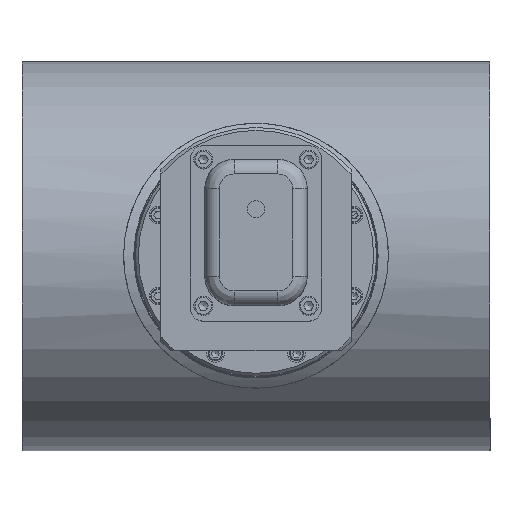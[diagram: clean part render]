
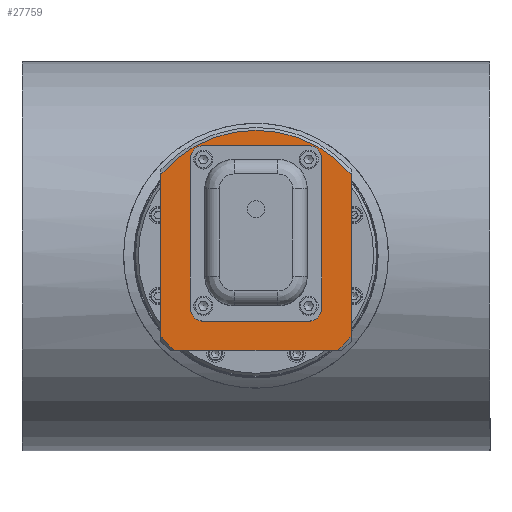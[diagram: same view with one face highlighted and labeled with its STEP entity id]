
A CAD part, top view. The second image highlights one B-rep face of the part: STEP entity #27759.
In plain terms, the highlighted planar face has unit normal (0, 0, 1).
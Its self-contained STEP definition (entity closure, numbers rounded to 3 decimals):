
#1642=FACE_BOUND('',#4150,.T.);
#1643=FACE_BOUND('',#4151,.T.);
#1644=FACE_BOUND('',#4152,.T.);
#1645=FACE_BOUND('',#4153,.T.);
#1646=FACE_BOUND('',#4154,.T.);
#2121=PLANE('',#29389);
#2633=FACE_OUTER_BOUND('',#4149,.T.);
#4149=EDGE_LOOP('',(#17711,#17712,#17713,#17714,#17715,#17716));
#4150=EDGE_LOOP('',(#17717));
#4151=EDGE_LOOP('',(#17718,#17719));
#4152=EDGE_LOOP('',(#17720,#17721));
#4153=EDGE_LOOP('',(#17722,#17723));
#4154=EDGE_LOOP('',(#17724,#17725));
#6120=LINE('',#40608,#7352);
#6124=LINE('',#40633,#7356);
#6128=LINE('',#40658,#7360);
#7352=VECTOR('',#32804,10.);
#7356=VECTOR('',#32810,10.);
#7360=VECTOR('',#32816,10.);
#8584=CIRCLE('',#29390,85.5);
#8585=CIRCLE('',#29391,85.5);
#8586=CIRCLE('',#29392,85.5);
#8587=CIRCLE('',#29393,40.364);
#8588=CIRCLE('',#29394,4.15);
#8589=CIRCLE('',#29395,4.15);
#8590=CIRCLE('',#29396,4.15);
#8591=CIRCLE('',#29397,4.15);
#8592=CIRCLE('',#29398,4.15);
#8593=CIRCLE('',#29399,4.15);
#8594=CIRCLE('',#29400,4.15);
#8595=CIRCLE('',#29401,4.15);
#10501=VERTEX_POINT('',#40586);
#10507=VERTEX_POINT('',#40604);
#10509=VERTEX_POINT('',#40611);
#10515=VERTEX_POINT('',#40629);
#10517=VERTEX_POINT('',#40636);
#10523=VERTEX_POINT('',#40654);
#10524=VERTEX_POINT('',#40663);
#10525=VERTEX_POINT('',#40665);
#10526=VERTEX_POINT('',#40666);
#10527=VERTEX_POINT('',#40669);
#10528=VERTEX_POINT('',#40670);
#10529=VERTEX_POINT('',#40673);
#10530=VERTEX_POINT('',#40674);
#10531=VERTEX_POINT('',#40677);
#10532=VERTEX_POINT('',#40678);
#13451=EDGE_CURVE('',#10501,#10507,#6120,.T.);
#13459=EDGE_CURVE('',#10509,#10515,#6124,.T.);
#13467=EDGE_CURVE('',#10517,#10523,#6128,.T.);
#13468=EDGE_CURVE('',#10517,#10507,#8584,.T.);
#13469=EDGE_CURVE('',#10509,#10523,#8585,.T.);
#13470=EDGE_CURVE('',#10501,#10515,#8586,.T.);
#13471=EDGE_CURVE('',#10524,#10524,#8587,.T.);
#13472=EDGE_CURVE('',#10525,#10526,#8588,.T.);
#13473=EDGE_CURVE('',#10526,#10525,#8589,.T.);
#13474=EDGE_CURVE('',#10527,#10528,#8590,.T.);
#13475=EDGE_CURVE('',#10528,#10527,#8591,.T.);
#13476=EDGE_CURVE('',#10529,#10530,#8592,.T.);
#13477=EDGE_CURVE('',#10530,#10529,#8593,.T.);
#13478=EDGE_CURVE('',#10531,#10532,#8594,.T.);
#13479=EDGE_CURVE('',#10532,#10531,#8595,.T.);
#17711=ORIENTED_EDGE('',*,*,#13451,.T.);
#17712=ORIENTED_EDGE('',*,*,#13468,.F.);
#17713=ORIENTED_EDGE('',*,*,#13467,.T.);
#17714=ORIENTED_EDGE('',*,*,#13469,.F.);
#17715=ORIENTED_EDGE('',*,*,#13459,.T.);
#17716=ORIENTED_EDGE('',*,*,#13470,.F.);
#17717=ORIENTED_EDGE('',*,*,#13471,.F.);
#17718=ORIENTED_EDGE('',*,*,#13472,.T.);
#17719=ORIENTED_EDGE('',*,*,#13473,.T.);
#17720=ORIENTED_EDGE('',*,*,#13474,.T.);
#17721=ORIENTED_EDGE('',*,*,#13475,.T.);
#17722=ORIENTED_EDGE('',*,*,#13476,.T.);
#17723=ORIENTED_EDGE('',*,*,#13477,.T.);
#17724=ORIENTED_EDGE('',*,*,#13478,.T.);
#17725=ORIENTED_EDGE('',*,*,#13479,.T.);
#27759=ADVANCED_FACE('',(#2633,#1642,#1643,#1644,#1645,#1646),#2121,.F.);
#29389=AXIS2_PLACEMENT_3D('',#40659,#32817,#32818);
#29390=AXIS2_PLACEMENT_3D('',#40660,#32819,#32820);
#29391=AXIS2_PLACEMENT_3D('',#40661,#32821,#32822);
#29392=AXIS2_PLACEMENT_3D('',#40662,#32823,#32824);
#29393=AXIS2_PLACEMENT_3D('',#40664,#32825,#32826);
#29394=AXIS2_PLACEMENT_3D('',#40667,#32827,#32828);
#29395=AXIS2_PLACEMENT_3D('',#40668,#32829,#32830);
#29396=AXIS2_PLACEMENT_3D('',#40671,#32831,#32832);
#29397=AXIS2_PLACEMENT_3D('',#40672,#32833,#32834);
#29398=AXIS2_PLACEMENT_3D('',#40675,#32835,#32836);
#29399=AXIS2_PLACEMENT_3D('',#40676,#32837,#32838);
#29400=AXIS2_PLACEMENT_3D('',#40679,#32839,#32840);
#29401=AXIS2_PLACEMENT_3D('',#40680,#32841,#32842);
#32804=DIRECTION('',(1.,0.,0.));
#32810=DIRECTION('',(0.,-1.,0.));
#32816=DIRECTION('',(0.,1.,0.));
#32817=DIRECTION('center_axis',(0.,0.,
-1.));
#32818=DIRECTION('ref_axis',(0.,1.,0.));
#32819=DIRECTION('center_axis',(0.,0.,
-1.));
#32820=DIRECTION('ref_axis',(0.,1.,0.));
#32821=DIRECTION('center_axis',(0.,0.,
-1.));
#32822=DIRECTION('ref_axis',(0.,1.,0.));
#32823=DIRECTION('center_axis',(0.,0.,
-1.));
#32824=DIRECTION('ref_axis',(0.,1.,0.));
#32825=DIRECTION('center_axis',(0.,0.,
1.));
#32826=DIRECTION('ref_axis',(0.,1.,0.));
#32827=DIRECTION('center_axis',(0.,0.,
-1.));
#32828=DIRECTION('ref_axis',(0.,-1.,0.));
#32829=DIRECTION('center_axis',(0.,0.,
-1.));
#32830=DIRECTION('ref_axis',(0.,-1.,0.));
#32831=DIRECTION('center_axis',(0.,0.,
-1.));
#32832=DIRECTION('ref_axis',(0.,-1.,0.));
#32833=DIRECTION('center_axis',(0.,0.,
-1.));
#32834=DIRECTION('ref_axis',(0.,-1.,0.));
#32835=DIRECTION('center_axis',(0.,0.,
-1.));
#32836=DIRECTION('ref_axis',(0.,-1.,0.));
#32837=DIRECTION('center_axis',(0.,0.,
-1.));
#32838=DIRECTION('ref_axis',(0.,-1.,0.));
#32839=DIRECTION('center_axis',(0.,0.,
-1.));
#32840=DIRECTION('ref_axis',(0.,-1.,0.));
#32841=DIRECTION('center_axis',(0.,0.,
-1.));
#32842=DIRECTION('ref_axis',(0.,-1.,0.));
#40586=CARTESIAN_POINT('',(-55.545,-65.,228.5));
#40604=CARTESIAN_POINT('',(55.545,-65.,228.5));
#40608=CARTESIAN_POINT('',(-32.5,-65.,228.5));
#40611=CARTESIAN_POINT('',(-65.,55.545,228.5));
#40629=CARTESIAN_POINT('',(-65.,-55.545,228.5));
#40633=CARTESIAN_POINT('',(-65.,43.75,228.5));
#40636=CARTESIAN_POINT('',(65.,-55.545,228.5));
#40654=CARTESIAN_POINT('',(65.,55.545,228.5));
#40658=CARTESIAN_POINT('',(65.,-32.5,228.5));
#40659=CARTESIAN_POINT('Origin',(0.,0.,
228.5));
#40660=CARTESIAN_POINT('Origin',(0.,0.,
228.5));
#40661=CARTESIAN_POINT('Origin',(0.,0.,
228.5));
#40662=CARTESIAN_POINT('Origin',(0.,0.,
228.5));
#40663=CARTESIAN_POINT('',(0.,-40.364,228.5));
#40664=CARTESIAN_POINT('Origin',(0.,0.,
228.5));
#40665=CARTESIAN_POINT('',(36.,-38.65,228.5));
#40666=CARTESIAN_POINT('',(36.,-30.35,228.5));
#40667=CARTESIAN_POINT('Origin',(36.,-34.5,228.5));
#40668=CARTESIAN_POINT('Origin',(36.,-34.5,228.5));
#40669=CARTESIAN_POINT('',(36.,61.35,228.5));
#40670=CARTESIAN_POINT('',(36.,69.65,228.5));
#40671=CARTESIAN_POINT('Origin',(36.,65.5,228.5));
#40672=CARTESIAN_POINT('Origin',(36.,65.5,228.5));
#40673=CARTESIAN_POINT('',(-36.,61.35,228.5));
#40674=CARTESIAN_POINT('',(-36.,69.65,228.5));
#40675=CARTESIAN_POINT('Origin',(-36.,65.5,228.5));
#40676=CARTESIAN_POINT('Origin',(-36.,65.5,228.5));
#40677=CARTESIAN_POINT('',(-36.,-38.65,228.5));
#40678=CARTESIAN_POINT('',(-36.,-30.35,228.5));
#40679=CARTESIAN_POINT('Origin',(-36.,-34.5,228.5));
#40680=CARTESIAN_POINT('Origin',(-36.,-34.5,228.5));
